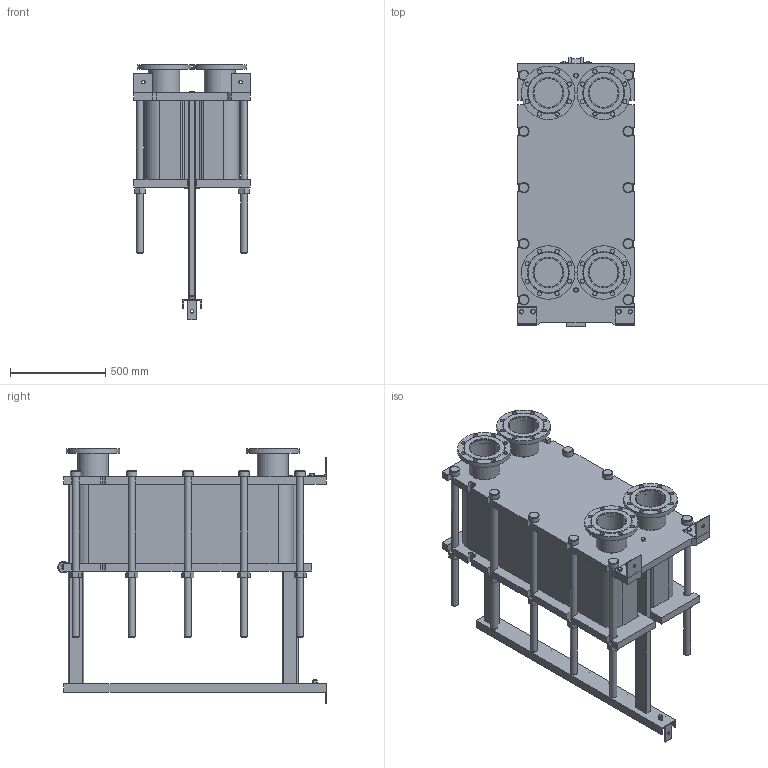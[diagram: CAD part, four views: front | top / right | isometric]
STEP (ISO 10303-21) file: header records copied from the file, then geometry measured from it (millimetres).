
FILE_DESCRIPTION(/* description */ (''),/* implementation_level */ '2;1');
FILE_NAME(/* name */ 'C:\Users\zhuro\Desktop\ENCO\TO\ЭН-041\ЭН-0,5-041-120-1.stp',/* time_stamp */ '2022-06-06T10:59:38+03:00',/* author */ ('zhuro'),/* organization */ (''),/* preprocessor_version */ 'ST-DEVELOPER v18.1',/* originating_system */ 'Autodesk Inventor 2022',/* authorisation */ '');
FILE_SCHEMA (('AUTOMOTIVE_DESIGN { 1 0 10303 214 3 1 1 }'));
Length unit declared in the file: millimetre
Products named in the file (1): ЭН-0,5-041-120-1
Bounding box: 610 x 1406.5 x 1340 mm (x, y, z)
Volume: 314727636.5 mm3; surface area: 9465494.7 mm2
Topology: 52 solids, 52 shells, 711 faces, 1696 edges, 1094 vertices
Faces by surface type: plane 487, cylinder 177, cone 41, torus 6
Full cylindrical faces by diameter (mm): 8 x4, 10 x2, 16 x8, 18 x3, 22 x32, 36 x24, 50 x1, 54 x10, 60 x12, 151 x4, 161 x8, 280 x4
Entity records: 22667 total; most frequent: CARTESIAN_POINT 5230, DIRECTION 3644, ORIENTED_EDGE 3392, EDGE_CURVE 1696, AXIS2_PLACEMENT_3D 1272, LINE 1100, VECTOR 1100, VERTEX_POINT 1094
